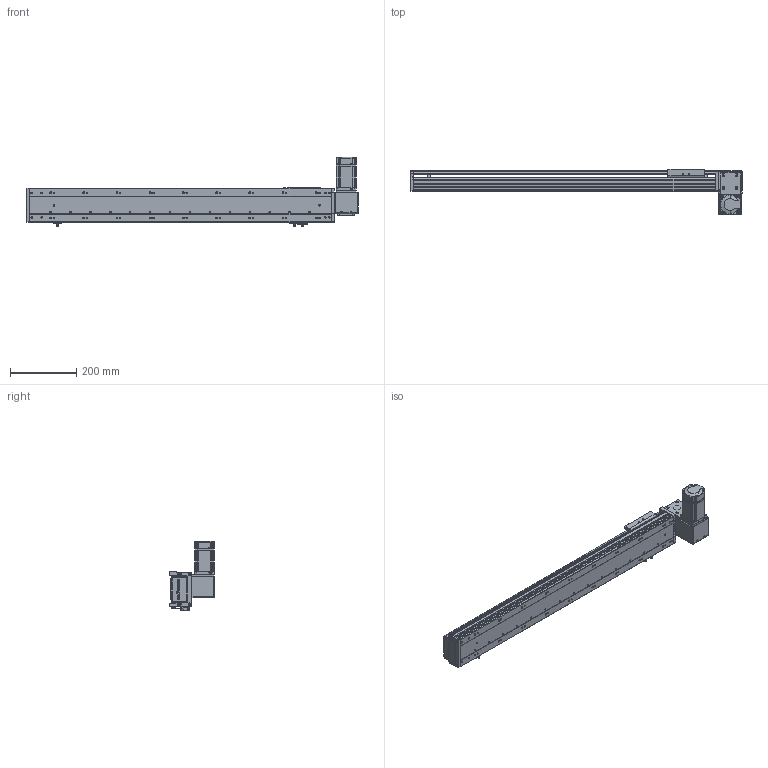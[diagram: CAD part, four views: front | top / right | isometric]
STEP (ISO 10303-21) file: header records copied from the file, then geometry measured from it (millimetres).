
FILE_DESCRIPTION (( 'STEP AP203' ), '1' );
FILE_NAME ('RY100-T-300-DR.SLDASM_700.step', '2024-04-25T03:22:29', ( '盈信电脑' ), ( '东莞市道滘镇水果街19号' ), 'SwSTEP 2.0', 'SolidWorks 2016', '' );
FILE_SCHEMA (( 'CONFIG_CONTROL_DESIGN' ));
Length unit declared in the file: millimetre
Products named in the file (16): RY80-T肮祭謫狟殏俋欶; RY100-T-300-DR.SLDASM_700; RY100-T翋肮祭謫裔啣; RY100-T左右折电机安装板; RY100-T翋肮祭謫裔啣2; 1; RY100-T肮祭謫臏賑輸; RY100-T肮祭謫翋盓傅釱; RY100俋离覜茼え; 覜茼ん672; RY100-T-300-RK倰第菁釱_700; 侂狟200W萇儂; RY100-T粣創揤踡裔; RY100綴裔啣; RY100-T-300-RK倰第奻裔_700; 滅袉蝶18-10
Assembly tree (19 placements, depth 3):
  RY100-T-300-DR.SLDASM_700
    RY100-T-300-RK倰第菁釱_700
    RY100-T-300-RK倰第奻裔_700
    RY100-T肮祭謫臏賑輸
    RY100綴裔啣
    覜茼ん672  x3
    RY100俋离覜茼え
    RY100-T肮祭謫翋盓傅釱
    RY100-T左右折电机安装板
    侂狟200W萇儂
      1
    RY100-T粣創揤踡裔
    滅袉蝶18-10  x2
    RY100-T翋肮祭謫裔啣2  x2
    RY100-T翋肮祭謫裔啣
    RY80-T肮祭謫狟殏俋欶
Bounding box: 1000 x 135.5 x 209.7 mm (x, y, z)
Volume: 2159530.7 mm3; surface area: 882264.7 mm2
Topology: 18 solids, 18 shells, 2253 faces, 6275 edges, 4077 vertices
Faces by surface type: plane 1221, cylinder 819, cone 135, bspline 78
Entity records: 72436 total; most frequent: CARTESIAN_POINT 17586, ORIENTED_EDGE 11286, DIRECTION 10723, EDGE_CURVE 5643, VERTEX_POINT 3713, VECTOR 3633, LINE 3633, AXIS2_PLACEMENT_3D 3545
